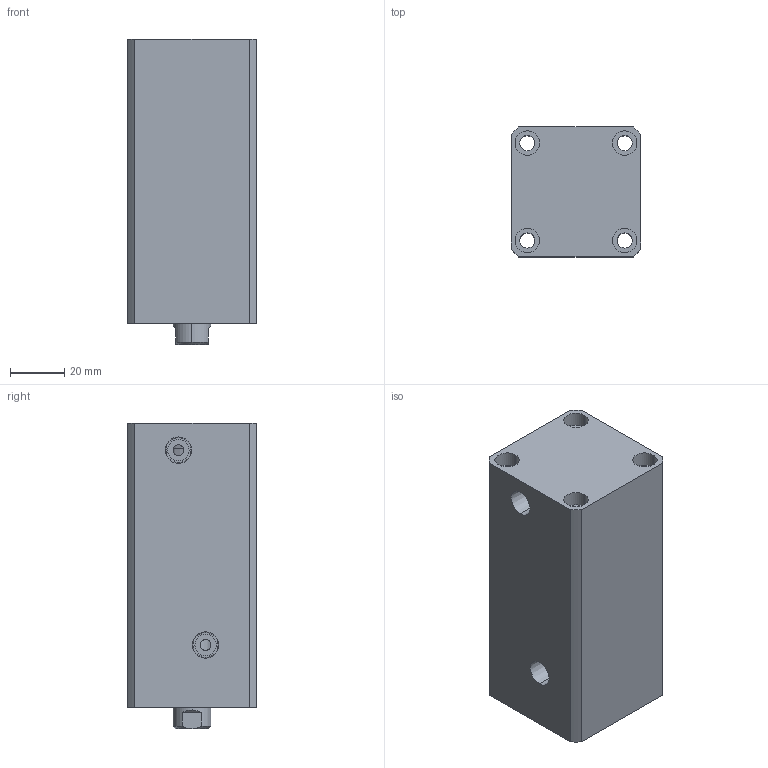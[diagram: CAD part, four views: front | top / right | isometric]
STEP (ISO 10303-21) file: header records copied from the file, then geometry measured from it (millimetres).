
FILE_DESCRIPTION (( 'STEP AP214' ), '1' );
FILE_NAME ('chtb-sd25x60n_asm.STEP', '2018-05-22T12:33:26', ( 'Windows' ), ( 'Microsoft' ), 'SwSTEP 2.0', 'SolidWorks 2015', '' );
FILE_SCHEMA (( 'AUTOMOTIVE_DESIGN' ));
Length unit declared in the file: millimetre
Products named in the file (4): CHTB-SD25X60NHSG; CHTB-SD25X60NBT; CHTB-25QG; chtb-sd25x60n_asm
Assembly tree (3 placements, depth 2):
  chtb-sd25x60n_asm
    CHTB-25QG
    CHTB-SD25X60NBT
    CHTB-SD25X60NHSG
Bounding box: 48 x 48 x 113 mm (x, y, z)
Volume: 205478.2 mm3; surface area: 52448.8 mm2
Topology: 3 solids, 3 shells, 144 faces, 377 edges, 257 vertices
Faces by surface type: cylinder 85, plane 36, cone 13, bspline 10
Entity records: 7940 total; most frequent: CARTESIAN_POINT 4299, ORIENTED_EDGE 742, DIRECTION 671, EDGE_CURVE 371, AXIS2_PLACEMENT_3D 278, VERTEX_POINT 257, EDGE_LOOP 182, FACE_OUTER_BOUND 144
